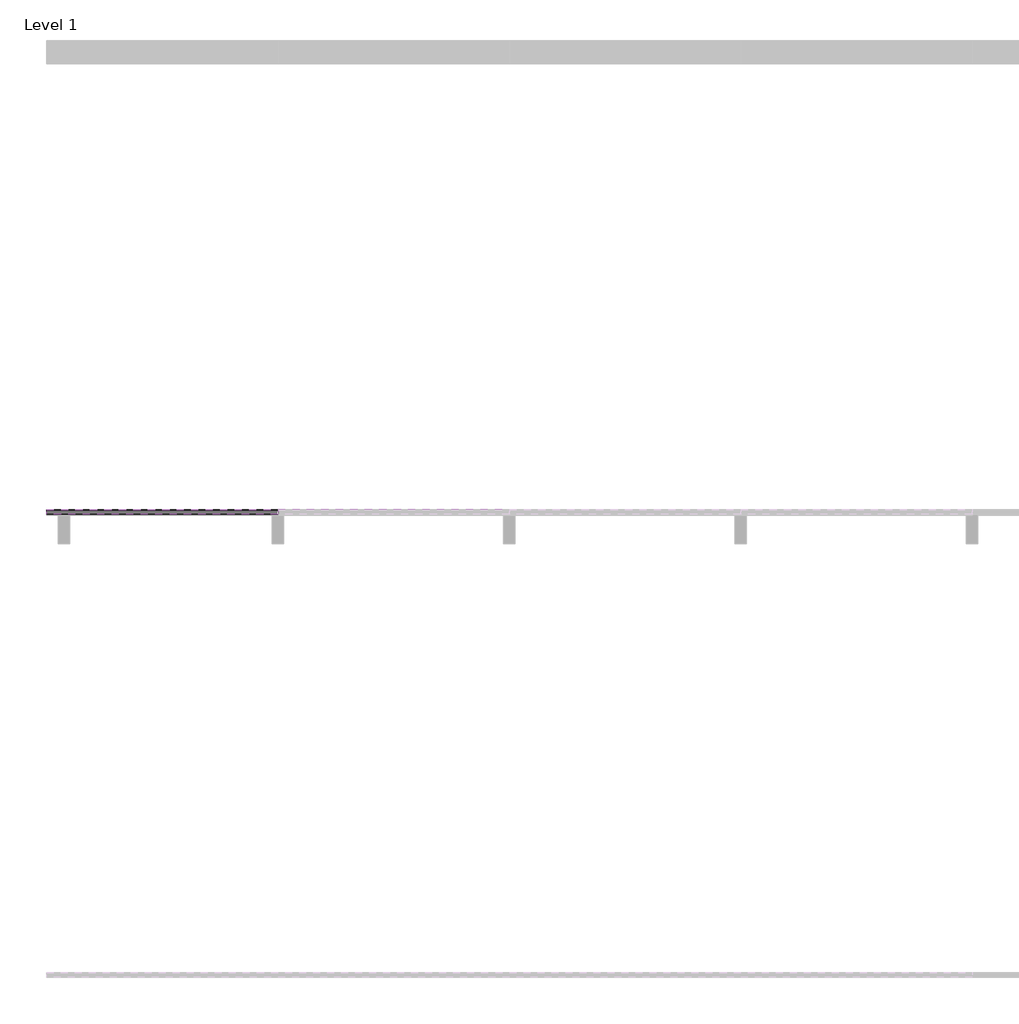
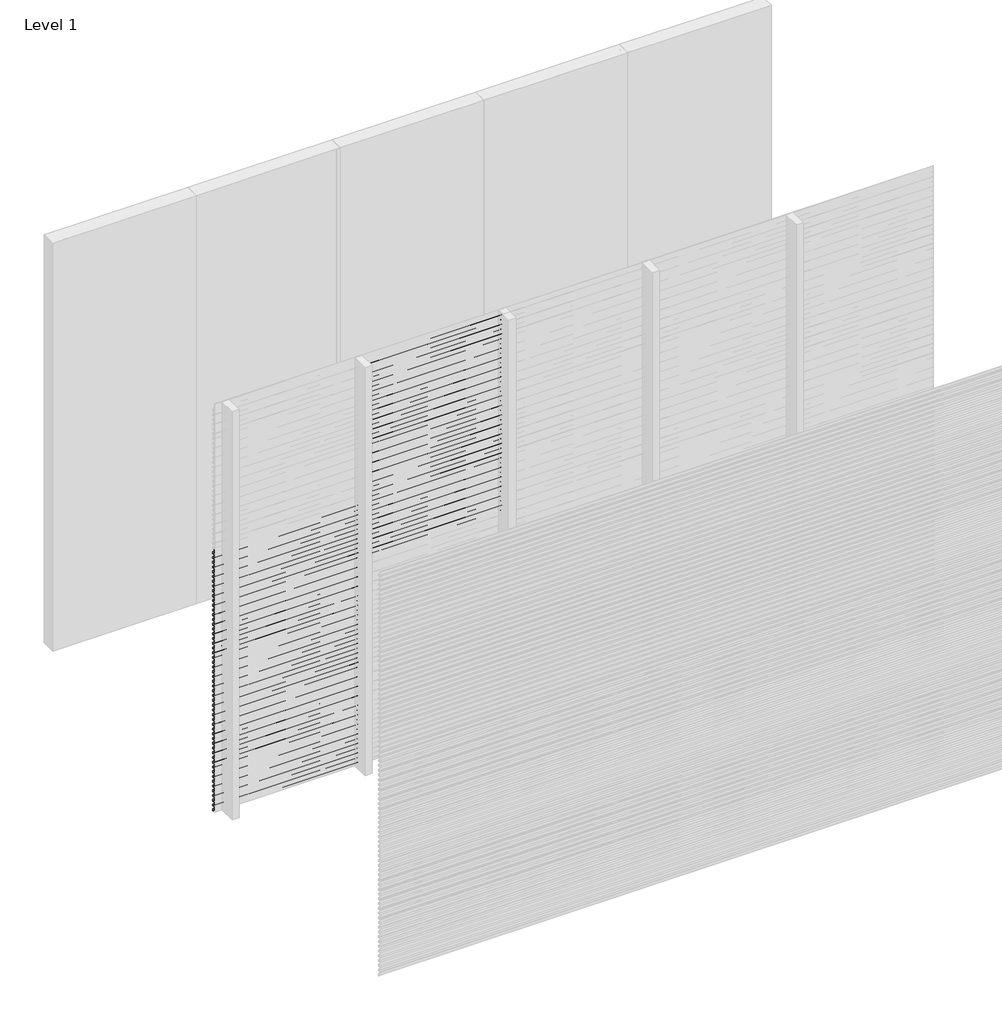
# One storey, part 3 of 25: 97 proxies.
"""IFC4 building model written with IfcOpenShell, lengths in millimetres."""

from ifc_helpers import new_model, si_unit, frame, origin, place, context, project, spatial, polyline, outline, extrude, element, save

model = new_model("IFC4")

# Units and contexts
model_context = context("Model", 3, world=origin())
ifc_project = project(units=[si_unit("LENGTHUNIT", "METRE", prefix="MILLI")], contexts=[model_context])

# Site, building, storey
site = spatial("IfcSite", under=ifc_project)
building = spatial("IfcBuilding", under=site)
storey = spatial("IfcBuildingStorey", under=building, Name="Level 1", Elevation=0.0)

# Proxies
placement = place(None, origin())
element("IfcBuildingElementProxy", 1, Name="Wall Sweeps", at=placement, inside=storey, context=model_context, shape_type="SweptSolid", body=[
    extrude(outline(polyline([(-17995.0, 2975.0), (-17995.0, 2963.942893), (-17976.0, 2948.0), (-17976.0, 2935.0), (-17997.0, 2952.6210923), (-17997.0, 2975.0), (-17995.0, 2975.0)])), frame((1000.0000002, 0.0, 0.0), z_axis=(1.0, 0.0, 0.0), x_axis=(0.0, 1.0, 0.0)), (0.0, 0.0, 1.0), 999.9999999),
])
element("IfcBuildingElementProxy", 2, Name="Wall Sweeps", at=placement, inside=storey, context=model_context, shape_type="SweptSolid", body=[
    extrude(outline(polyline([(-17995.0, 2940.0), (-17995.0, 2928.942893), (-17976.0, 2913.0), (-17976.0, 2900.0), (-17997.0, 2917.6210923), (-17997.0, 2940.0), (-17995.0, 2940.0)])), frame((1000.0000002, 0.0, 0.0), z_axis=(1.0, 0.0, 0.0), x_axis=(0.0, 1.0, 0.0)), (0.0, 0.0, 1.0), 999.9999999),
])
element("IfcBuildingElementProxy", 3, Name="Wall Sweeps", at=placement, inside=storey, context=model_context, shape_type="SweptSolid", body=[
    extrude(outline(polyline([(-17995.0, 2905.0), (-17995.0, 2893.942893), (-17976.0, 2878.0), (-17976.0, 2865.0), (-17997.0, 2882.6210923), (-17997.0, 2905.0), (-17995.0, 2905.0)])), frame((1000.0000002, 0.0, 0.0), z_axis=(1.0, 0.0, 0.0), x_axis=(0.0, 1.0, 0.0)), (0.0, 0.0, 1.0), 999.9999999),
])
element("IfcBuildingElementProxy", 4, Name="Wall Sweeps", at=placement, inside=storey, context=model_context, shape_type="SweptSolid", body=[
    extrude(outline(polyline([(-17995.0, 2870.0), (-17995.0, 2858.942893), (-17976.0, 2843.0), (-17976.0, 2830.0), (-17997.0, 2847.6210923), (-17997.0, 2870.0), (-17995.0, 2870.0)])), frame((1000.0000002, 0.0, 0.0), z_axis=(1.0, 0.0, 0.0), x_axis=(0.0, 1.0, 0.0)), (0.0, 0.0, 1.0), 999.9999999),
])
element("IfcBuildingElementProxy", 5, Name="Wall Sweeps", at=placement, inside=storey, context=model_context, shape_type="SweptSolid", body=[
    extrude(outline(polyline([(-17995.0, 2835.0), (-17995.0, 2823.942893), (-17976.0, 2808.0), (-17976.0, 2795.0), (-17997.0, 2812.6210923), (-17997.0, 2835.0), (-17995.0, 2835.0)])), frame((1000.0000002, 0.0, 0.0), z_axis=(1.0, 0.0, 0.0), x_axis=(0.0, 1.0, 0.0)), (0.0, 0.0, 1.0), 999.9999999),
])
element("IfcBuildingElementProxy", 6, Name="Wall Sweeps", at=placement, inside=storey, context=model_context, shape_type="SweptSolid", body=[
    extrude(outline(polyline([(-17995.0, 2800.0), (-17995.0, 2788.942893), (-17976.0, 2773.0), (-17976.0, 2760.0), (-17997.0, 2777.6210923), (-17997.0, 2800.0), (-17995.0, 2800.0)])), frame((1000.0000002, 0.0, 0.0), z_axis=(1.0, 0.0, 0.0), x_axis=(0.0, 1.0, 0.0)), (0.0, 0.0, 1.0), 999.9999999),
])
element("IfcBuildingElementProxy", 7, Name="Wall Sweeps", at=placement, inside=storey, context=model_context, shape_type="SweptSolid", body=[
    extrude(outline(polyline([(-17995.0, 2765.0), (-17995.0, 2753.942893), (-17976.0, 2738.0), (-17976.0, 2725.0), (-17997.0, 2742.6210923), (-17997.0, 2765.0), (-17995.0, 2765.0)])), frame((1000.0000002, 0.0, 0.0), z_axis=(1.0, 0.0, 0.0), x_axis=(0.0, 1.0, 0.0)), (0.0, 0.0, 1.0), 999.9999999),
])
element("IfcBuildingElementProxy", 8, Name="Wall Sweeps", at=placement, inside=storey, context=model_context, shape_type="SweptSolid", body=[
    extrude(outline(polyline([(-17995.0, 2730.0), (-17995.0, 2718.942893), (-17976.0, 2703.0), (-17976.0, 2690.0), (-17997.0, 2707.6210923), (-17997.0, 2730.0), (-17995.0, 2730.0)])), frame((1000.0000002, 0.0, 0.0), z_axis=(1.0, 0.0, 0.0), x_axis=(0.0, 1.0, 0.0)), (0.0, 0.0, 1.0), 999.9999999),
])
element("IfcBuildingElementProxy", 9, Name="Wall Sweeps", at=placement, inside=storey, context=model_context, shape_type="SweptSolid", body=[
    extrude(outline(polyline([(-17995.0, 2695.0), (-17995.0, 2683.942893), (-17976.0, 2668.0), (-17976.0, 2655.0), (-17997.0, 2672.6210923), (-17997.0, 2695.0), (-17995.0, 2695.0)])), frame((1000.0000002, 0.0, 0.0), z_axis=(1.0, 0.0, 0.0), x_axis=(0.0, 1.0, 0.0)), (0.0, 0.0, 1.0), 999.9999999),
])
element("IfcBuildingElementProxy", 10, Name="Wall Sweeps", at=placement, inside=storey, context=model_context, shape_type="SweptSolid", body=[
    extrude(outline(polyline([(-17995.0, 2660.0), (-17995.0, 2648.942893), (-17976.0, 2633.0), (-17976.0, 2620.0), (-17997.0, 2637.6210923), (-17997.0, 2660.0), (-17995.0, 2660.0)])), frame((1000.0000002, 0.0, 0.0), z_axis=(1.0, 0.0, 0.0), x_axis=(0.0, 1.0, 0.0)), (0.0, 0.0, 1.0), 999.9999999),
])
element("IfcBuildingElementProxy", 11, Name="Wall Sweeps", at=placement, inside=storey, context=model_context, shape_type="SweptSolid", body=[
    extrude(outline(polyline([(-17995.0, 2625.0), (-17995.0, 2613.942893), (-17976.0, 2598.0), (-17976.0, 2585.0), (-17997.0, 2602.6210923), (-17997.0, 2625.0), (-17995.0, 2625.0)])), frame((1000.0000002, 0.0, 0.0), z_axis=(1.0, 0.0, 0.0), x_axis=(0.0, 1.0, 0.0)), (0.0, 0.0, 1.0), 999.9999999),
])
element("IfcBuildingElementProxy", 12, Name="Wall Sweeps", at=placement, inside=storey, context=model_context, shape_type="SweptSolid", body=[
    extrude(outline(polyline([(-17995.0, 2590.0), (-17995.0, 2578.942893), (-17976.0, 2563.0), (-17976.0, 2550.0), (-17997.0, 2567.6210923), (-17997.0, 2590.0), (-17995.0, 2590.0)])), frame((1000.0000002, 0.0, 0.0), z_axis=(1.0, 0.0, 0.0), x_axis=(0.0, 1.0, 0.0)), (0.0, 0.0, 1.0), 999.9999999),
])
element("IfcBuildingElementProxy", 13, Name="Wall Sweeps", at=placement, inside=storey, context=model_context, shape_type="SweptSolid", body=[
    extrude(outline(polyline([(-17995.0, 2555.0), (-17995.0, 2543.942893), (-17976.0, 2528.0), (-17976.0, 2515.0), (-17997.0, 2532.6210923), (-17997.0, 2555.0), (-17995.0, 2555.0)])), frame((1000.0000002, 0.0, 0.0), z_axis=(1.0, 0.0, 0.0), x_axis=(0.0, 1.0, 0.0)), (0.0, 0.0, 1.0), 999.9999999),
])
element("IfcBuildingElementProxy", 14, Name="Wall Sweeps", at=placement, inside=storey, context=model_context, shape_type="SweptSolid", body=[
    extrude(outline(polyline([(-17995.0, 2520.0), (-17995.0, 2508.942893), (-17976.0, 2493.0), (-17976.0, 2480.0), (-17997.0, 2497.6210923), (-17997.0, 2520.0), (-17995.0, 2520.0)])), frame((1000.0000002, 0.0, 0.0), z_axis=(1.0, 0.0, 0.0), x_axis=(0.0, 1.0, 0.0)), (0.0, 0.0, 1.0), 999.9999999),
])
element("IfcBuildingElementProxy", 15, Name="Wall Sweeps", at=placement, inside=storey, context=model_context, shape_type="SweptSolid", body=[
    extrude(outline(polyline([(-17995.0, 2485.0), (-17995.0, 2473.942893), (-17976.0, 2458.0), (-17976.0, 2445.0), (-17997.0, 2462.6210923), (-17997.0, 2485.0), (-17995.0, 2485.0)])), frame((1000.0000002, 0.0, 0.0), z_axis=(1.0, 0.0, 0.0), x_axis=(0.0, 1.0, 0.0)), (0.0, 0.0, 1.0), 999.9999999),
])
element("IfcBuildingElementProxy", 16, Name="Wall Sweeps", at=placement, inside=storey, context=model_context, shape_type="SweptSolid", body=[
    extrude(outline(polyline([(-17995.0, 2450.0), (-17995.0, 2438.942893), (-17976.0, 2423.0), (-17976.0, 2410.0), (-17997.0, 2427.6210923), (-17997.0, 2450.0), (-17995.0, 2450.0)])), frame((1000.0000002, 0.0, 0.0), z_axis=(1.0, 0.0, 0.0), x_axis=(0.0, 1.0, 0.0)), (0.0, 0.0, 1.0), 999.9999999),
])
element("IfcBuildingElementProxy", 17, Name="Wall Sweeps", at=placement, inside=storey, context=model_context, shape_type="SweptSolid", body=[
    extrude(outline(polyline([(-17995.0, 2415.0), (-17995.0, 2403.942893), (-17976.0, 2388.0), (-17976.0, 2375.0), (-17997.0, 2392.6210923), (-17997.0, 2415.0), (-17995.0, 2415.0)])), frame((1000.0000002, 0.0, 0.0), z_axis=(1.0, 0.0, 0.0), x_axis=(0.0, 1.0, 0.0)), (0.0, 0.0, 1.0), 999.9999999),
])
element("IfcBuildingElementProxy", 18, Name="Wall Sweeps", at=placement, inside=storey, context=model_context, shape_type="SweptSolid", body=[
    extrude(outline(polyline([(-17995.0, 2380.0), (-17995.0, 2368.942893), (-17976.0, 2353.0), (-17976.0, 2340.0), (-17997.0, 2357.6210923), (-17997.0, 2380.0), (-17995.0, 2380.0)])), frame((1000.0000002, 0.0, 0.0), z_axis=(1.0, 0.0, 0.0), x_axis=(0.0, 1.0, 0.0)), (0.0, 0.0, 1.0), 999.9999999),
])
element("IfcBuildingElementProxy", 19, Name="Wall Sweeps", at=placement, inside=storey, context=model_context, shape_type="SweptSolid", body=[
    extrude(outline(polyline([(-17995.0, 2345.0), (-17995.0, 2333.942893), (-17976.0, 2318.0), (-17976.0, 2305.0), (-17997.0, 2322.6210923), (-17997.0, 2345.0), (-17995.0, 2345.0)])), frame((1000.0000002, 0.0, 0.0), z_axis=(1.0, 0.0, 0.0), x_axis=(0.0, 1.0, 0.0)), (0.0, 0.0, 1.0), 999.9999999),
])
element("IfcBuildingElementProxy", 20, Name="Wall Sweeps", at=placement, inside=storey, context=model_context, shape_type="SweptSolid", body=[
    extrude(outline(polyline([(-17995.0, 2310.0), (-17995.0, 2298.942893), (-17976.0, 2283.0), (-17976.0, 2270.0), (-17997.0, 2287.6210923), (-17997.0, 2310.0), (-17995.0, 2310.0)])), frame((1000.0000002, 0.0, 0.0), z_axis=(1.0, 0.0, 0.0), x_axis=(0.0, 1.0, 0.0)), (0.0, 0.0, 1.0), 999.9999999),
])
element("IfcBuildingElementProxy", 21, Name="Wall Sweeps", at=placement, inside=storey, context=model_context, shape_type="SweptSolid", body=[
    extrude(outline(polyline([(-17995.0, 2275.0), (-17995.0, 2263.942893), (-17976.0, 2248.0), (-17976.0, 2235.0), (-17997.0, 2252.6210923), (-17997.0, 2275.0), (-17995.0, 2275.0)])), frame((1000.0000002, 0.0, 0.0), z_axis=(1.0, 0.0, 0.0), x_axis=(0.0, 1.0, 0.0)), (0.0, 0.0, 1.0), 999.9999999),
])
element("IfcBuildingElementProxy", 22, Name="Wall Sweeps", at=placement, inside=storey, context=model_context, shape_type="SweptSolid", body=[
    extrude(outline(polyline([(-17995.0, 2240.0), (-17995.0, 2228.942893), (-17976.0, 2213.0), (-17976.0, 2200.0), (-17997.0, 2217.6210923), (-17997.0, 2240.0), (-17995.0, 2240.0)])), frame((1000.0000002, 0.0, 0.0), z_axis=(1.0, 0.0, 0.0), x_axis=(0.0, 1.0, 0.0)), (0.0, 0.0, 1.0), 999.9999999),
])
element("IfcBuildingElementProxy", 23, Name="Wall Sweeps", at=placement, inside=storey, context=model_context, shape_type="SweptSolid", body=[
    extrude(outline(polyline([(-17995.0, 2205.0), (-17995.0, 2193.942893), (-17976.0, 2178.0), (-17976.0, 2165.0), (-17997.0, 2182.6210923), (-17997.0, 2205.0), (-17995.0, 2205.0)])), frame((1000.0000002, 0.0, 0.0), z_axis=(1.0, 0.0, 0.0), x_axis=(0.0, 1.0, 0.0)), (0.0, 0.0, 1.0), 999.9999999),
])
element("IfcBuildingElementProxy", 24, Name="Wall Sweeps", at=placement, inside=storey, context=model_context, shape_type="SweptSolid", body=[
    extrude(outline(polyline([(-17995.0, 2170.0), (-17995.0, 2158.942893), (-17976.0, 2143.0), (-17976.0, 2130.0), (-17997.0, 2147.6210923), (-17997.0, 2170.0), (-17995.0, 2170.0)])), frame((1000.0000002, 0.0, 0.0), z_axis=(1.0, 0.0, 0.0), x_axis=(0.0, 1.0, 0.0)), (0.0, 0.0, 1.0), 999.9999999),
])
element("IfcBuildingElementProxy", 25, Name="Wall Sweeps", at=placement, inside=storey, context=model_context, shape_type="SweptSolid", body=[
    extrude(outline(polyline([(-17995.0, 2135.0), (-17995.0, 2123.942893), (-17976.0, 2108.0), (-17976.0, 2095.0), (-17997.0, 2112.6210923), (-17997.0, 2135.0), (-17995.0, 2135.0)])), frame((1000.0000002, 0.0, 0.0), z_axis=(1.0, 0.0, 0.0), x_axis=(0.0, 1.0, 0.0)), (0.0, 0.0, 1.0), 999.9999999),
])
element("IfcBuildingElementProxy", 26, Name="Wall Sweeps", at=placement, inside=storey, context=model_context, shape_type="SweptSolid", body=[
    extrude(outline(polyline([(-17995.0, 2100.0), (-17995.0, 2088.942893), (-17976.0, 2073.0), (-17976.0, 2060.0), (-17997.0, 2077.6210923), (-17997.0, 2100.0), (-17995.0, 2100.0)])), frame((1000.0000002, 0.0, 0.0), z_axis=(1.0, 0.0, 0.0), x_axis=(0.0, 1.0, 0.0)), (0.0, 0.0, 1.0), 999.9999999),
])
element("IfcBuildingElementProxy", 27, Name="Wall Sweeps", at=placement, inside=storey, context=model_context, shape_type="SweptSolid", body=[
    extrude(outline(polyline([(-17995.0, 2065.0), (-17995.0, 2053.942893), (-17976.0, 2038.0), (-17976.0, 2025.0), (-17997.0, 2042.6210923), (-17997.0, 2065.0), (-17995.0, 2065.0)])), frame((1000.0000002, 0.0, 0.0), z_axis=(1.0, 0.0, 0.0), x_axis=(0.0, 1.0, 0.0)), (0.0, 0.0, 1.0), 999.9999999),
])
element("IfcBuildingElementProxy", 28, Name="Wall Sweeps", at=placement, inside=storey, context=model_context, shape_type="SweptSolid", body=[
    extrude(outline(polyline([(-17995.0, 2030.0), (-17995.0, 2018.942893), (-17976.0, 2003.0), (-17976.0, 1990.0), (-17997.0, 2007.6210923), (-17997.0, 2030.0), (-17995.0, 2030.0)])), frame((1000.0000002, 0.0, 0.0), z_axis=(1.0, 0.0, 0.0), x_axis=(0.0, 1.0, 0.0)), (0.0, 0.0, 1.0), 999.9999999),
])
element("IfcBuildingElementProxy", 29, Name="Wall Sweeps", at=placement, inside=storey, context=model_context, shape_type="SweptSolid", body=[
    extrude(outline(polyline([(-17995.0, 1995.0), (-17995.0, 1983.942893), (-17976.0, 1968.0), (-17976.0, 1955.0), (-17997.0, 1972.6210923), (-17997.0, 1995.0), (-17995.0, 1995.0)])), frame((1000.0000002, 0.0, 0.0), z_axis=(1.0, 0.0, 0.0), x_axis=(0.0, 1.0, 0.0)), (0.0, 0.0, 1.0), 999.9999999),
])
element("IfcBuildingElementProxy", 30, Name="Wall Sweeps", at=placement, inside=storey, context=model_context, shape_type="SweptSolid", body=[
    extrude(outline(polyline([(-17995.0, 1960.0), (-17995.0, 1948.942893), (-17976.0, 1933.0), (-17976.0, 1920.0), (-17997.0, 1937.6210923), (-17997.0, 1960.0), (-17995.0, 1960.0)])), frame((1000.0000002, 0.0, 0.0), z_axis=(1.0, 0.0, 0.0), x_axis=(0.0, 1.0, 0.0)), (0.0, 0.0, 1.0), 999.9999999),
])
element("IfcBuildingElementProxy", 31, Name="Wall Sweeps", at=placement, inside=storey, context=model_context, shape_type="SweptSolid", body=[
    extrude(outline(polyline([(-17995.0, 1925.0), (-17995.0, 1913.942893), (-17976.0, 1898.0), (-17976.0, 1885.0), (-17997.0, 1902.6210923), (-17997.0, 1925.0), (-17995.0, 1925.0)])), frame((1000.0000002, 0.0, 0.0), z_axis=(1.0, 0.0, 0.0), x_axis=(0.0, 1.0, 0.0)), (0.0, 0.0, 1.0), 999.9999999),
])
element("IfcBuildingElementProxy", 32, Name="Wall Sweeps", at=placement, inside=storey, context=model_context, shape_type="SweptSolid", body=[
    extrude(outline(polyline([(-17995.0, 1890.0), (-17995.0, 1878.942893), (-17976.0, 1863.0), (-17976.0, 1850.0), (-17997.0, 1867.6210923), (-17997.0, 1890.0), (-17995.0, 1890.0)])), frame((1000.0000002, 0.0, 0.0), z_axis=(1.0, 0.0, 0.0), x_axis=(0.0, 1.0, 0.0)), (0.0, 0.0, 1.0), 999.9999999),
])
element("IfcBuildingElementProxy", 33, Name="Wall Sweeps", at=placement, inside=storey, context=model_context, shape_type="SweptSolid", body=[
    extrude(outline(polyline([(-17995.0, 1855.0), (-17995.0, 1843.942893), (-17976.0, 1828.0), (-17976.0, 1815.0), (-17997.0, 1832.6210923), (-17997.0, 1855.0), (-17995.0, 1855.0)])), frame((1000.0000002, 0.0, 0.0), z_axis=(1.0, 0.0, 0.0), x_axis=(0.0, 1.0, 0.0)), (0.0, 0.0, 1.0), 999.9999999),
])
element("IfcBuildingElementProxy", 34, Name="Wall Sweeps", at=placement, inside=storey, context=model_context, shape_type="SweptSolid", body=[
    extrude(outline(polyline([(-17995.0, 1820.0), (-17995.0, 1808.942893), (-17976.0, 1793.0), (-17976.0, 1780.0), (-17997.0, 1797.6210923), (-17997.0, 1820.0), (-17995.0, 1820.0)])), frame((1000.0000002, 0.0, 0.0), z_axis=(1.0, 0.0, 0.0), x_axis=(0.0, 1.0, 0.0)), (0.0, 0.0, 1.0), 999.9999999),
])
element("IfcBuildingElementProxy", 35, Name="Wall Sweeps", at=placement, inside=storey, context=model_context, shape_type="SweptSolid", body=[
    extrude(outline(polyline([(-17995.0, 1785.0), (-17995.0, 1773.942893), (-17976.0, 1758.0), (-17976.0, 1745.0), (-17997.0, 1762.6210923), (-17997.0, 1785.0), (-17995.0, 1785.0)])), frame((1000.0000002, 0.0, 0.0), z_axis=(1.0, 0.0, 0.0), x_axis=(0.0, 1.0, 0.0)), (0.0, 0.0, 1.0), 999.9999999),
])
element("IfcBuildingElementProxy", 36, Name="Wall Sweeps", at=placement, inside=storey, context=model_context, shape_type="SweptSolid", body=[
    extrude(outline(polyline([(-17995.0, 1750.0), (-17995.0, 1738.942893), (-17976.0, 1723.0), (-17976.0, 1710.0), (-17997.0, 1727.6210923), (-17997.0, 1750.0), (-17995.0, 1750.0)])), frame((1000.0000002, 0.0, 0.0), z_axis=(1.0, 0.0, 0.0), x_axis=(0.0, 1.0, 0.0)), (0.0, 0.0, 1.0), 999.9999999),
])
element("IfcBuildingElementProxy", 37, Name="Wall Sweeps", at=placement, inside=storey, context=model_context, shape_type="SweptSolid", body=[
    extrude(outline(polyline([(-17995.0, 1715.0), (-17995.0, 1703.942893), (-17976.0, 1688.0), (-17976.0, 1675.0), (-17997.0, 1692.6210923), (-17997.0, 1715.0), (-17995.0, 1715.0)])), frame((1000.0000002, 0.0, 0.0), z_axis=(1.0, 0.0, 0.0), x_axis=(0.0, 1.0, 0.0)), (0.0, 0.0, 1.0), 999.9999999),
])
element("IfcBuildingElementProxy", 38, Name="Wall Sweeps", at=placement, inside=storey, context=model_context, shape_type="SweptSolid", body=[
    extrude(outline(polyline([(-17995.0, 1680.0), (-17995.0, 1668.942893), (-17976.0, 1653.0), (-17976.0, 1640.0), (-17997.0, 1657.6210923), (-17997.0, 1680.0), (-17995.0, 1680.0)])), frame((1000.0000002, 0.0, 0.0), z_axis=(1.0, 0.0, 0.0), x_axis=(0.0, 1.0, 0.0)), (0.0, 0.0, 1.0), 999.9999999),
])
element("IfcBuildingElementProxy", 39, Name="Wall Sweeps", at=placement, inside=storey, context=model_context, shape_type="SweptSolid", body=[
    extrude(outline(polyline([(-17995.0, 1645.0), (-17995.0, 1633.942893), (-17976.0, 1618.0), (-17976.0, 1605.0), (-17997.0, 1622.6210923), (-17997.0, 1645.0), (-17995.0, 1645.0)])), frame((1000.0000002, 0.0, 0.0), z_axis=(1.0, 0.0, 0.0), x_axis=(0.0, 1.0, 0.0)), (0.0, 0.0, 1.0), 999.9999999),
])
element("IfcBuildingElementProxy", 40, Name="Wall Sweeps", at=placement, inside=storey, context=model_context, shape_type="SweptSolid", body=[
    extrude(outline(polyline([(-17995.0, 1610.0), (-17995.0, 1598.942893), (-17976.0, 1583.0), (-17976.0, 1570.0), (-17997.0, 1587.6210923), (-17997.0, 1610.0), (-17995.0, 1610.0)])), frame((1000.0000002, 0.0, 0.0), z_axis=(1.0, 0.0, 0.0), x_axis=(0.0, 1.0, 0.0)), (0.0, 0.0, 1.0), 999.9999999),
])
element("IfcBuildingElementProxy", 41, Name="Wall Sweeps", at=placement, inside=storey, context=model_context, shape_type="SweptSolid", body=[
    extrude(outline(polyline([(-17995.0, 1575.0), (-17995.0, 1563.942893), (-17976.0, 1548.0), (-17976.0, 1535.0), (-17997.0, 1552.6210923), (-17997.0, 1575.0), (-17995.0, 1575.0)])), frame((1000.0000002, 0.0, 0.0), z_axis=(1.0, 0.0, 0.0), x_axis=(0.0, 1.0, 0.0)), (0.0, 0.0, 1.0), 999.9999999),
])
element("IfcBuildingElementProxy", 42, Name="Wall Sweeps", at=placement, inside=storey, context=model_context, shape_type="SweptSolid", body=[
    extrude(outline(polyline([(-17995.0, 1540.0), (-17995.0, 1528.942893), (-17976.0, 1513.0), (-17976.0, 1500.0), (-17997.0, 1517.6210923), (-17997.0, 1540.0), (-17995.0, 1540.0)])), frame((1000.0000002, 0.0, 0.0), z_axis=(1.0, 0.0, 0.0), x_axis=(0.0, 1.0, 0.0)), (0.0, 0.0, 1.0), 999.9999999),
])
element("IfcBuildingElementProxy", 43, Name="Wall Sweeps", at=placement, inside=storey, context=model_context, shape_type="SweptSolid", body=[
    extrude(outline(polyline([(-17995.0, 1925.0), (-17995.0, 1913.942893), (-17976.0, 1898.0), (-17976.0, 1885.0), (-17997.0, 1902.6210923), (-17997.0, 1925.0), (-17995.0, 1925.0)])), frame((0.0, 0.0, 0.0), z_axis=(1.0, 0.0, 0.0), x_axis=(0.0, 1.0, 0.0)), (0.0, 0.0, 1.0), 1000.0000002),
])
element("IfcBuildingElementProxy", 44, Name="Wall Sweeps", at=placement, inside=storey, context=model_context, shape_type="SweptSolid", body=[
    extrude(outline(polyline([(-17995.0, 1890.0), (-17995.0, 1878.942893), (-17976.0, 1863.0), (-17976.0, 1850.0), (-17997.0, 1867.6210923), (-17997.0, 1890.0), (-17995.0, 1890.0)])), frame((0.0, 0.0, 0.0), z_axis=(1.0, 0.0, 0.0), x_axis=(0.0, 1.0, 0.0)), (0.0, 0.0, 1.0), 1000.0000002),
])
element("IfcBuildingElementProxy", 45, Name="Wall Sweeps", at=placement, inside=storey, context=model_context, shape_type="SweptSolid", body=[
    extrude(outline(polyline([(-17995.0, 1855.0), (-17995.0, 1843.942893), (-17976.0, 1828.0), (-17976.0, 1815.0), (-17997.0, 1832.6210923), (-17997.0, 1855.0), (-17995.0, 1855.0)])), frame((0.0, 0.0, 0.0), z_axis=(1.0, 0.0, 0.0), x_axis=(0.0, 1.0, 0.0)), (0.0, 0.0, 1.0), 1000.0000002),
])
element("IfcBuildingElementProxy", 46, Name="Wall Sweeps", at=placement, inside=storey, context=model_context, shape_type="SweptSolid", body=[
    extrude(outline(polyline([(-17995.0, 1820.0), (-17995.0, 1808.942893), (-17976.0, 1793.0), (-17976.0, 1780.0), (-17997.0, 1797.6210923), (-17997.0, 1820.0), (-17995.0, 1820.0)])), frame((0.0, 0.0, 0.0), z_axis=(1.0, 0.0, 0.0), x_axis=(0.0, 1.0, 0.0)), (0.0, 0.0, 1.0), 1000.0000002),
])
element("IfcBuildingElementProxy", 47, Name="Wall Sweeps", at=placement, inside=storey, context=model_context, shape_type="SweptSolid", body=[
    extrude(outline(polyline([(-17995.0, 1785.0), (-17995.0, 1773.942893), (-17976.0, 1758.0), (-17976.0, 1745.0), (-17997.0, 1762.6210923), (-17997.0, 1785.0), (-17995.0, 1785.0)])), frame((0.0, 0.0, 0.0), z_axis=(1.0, 0.0, 0.0), x_axis=(0.0, 1.0, 0.0)), (0.0, 0.0, 1.0), 1000.0000002),
])
element("IfcBuildingElementProxy", 48, Name="Wall Sweeps", at=placement, inside=storey, context=model_context, shape_type="SweptSolid", body=[
    extrude(outline(polyline([(-17995.0, 1750.0), (-17995.0, 1738.942893), (-17976.0, 1723.0), (-17976.0, 1710.0), (-17997.0, 1727.6210923), (-17997.0, 1750.0), (-17995.0, 1750.0)])), frame((0.0, 0.0, 0.0), z_axis=(1.0, 0.0, 0.0), x_axis=(0.0, 1.0, 0.0)), (0.0, 0.0, 1.0), 1000.0000002),
])
element("IfcBuildingElementProxy", 49, Name="Wall Sweeps", at=placement, inside=storey, context=model_context, shape_type="SweptSolid", body=[
    extrude(outline(polyline([(-17995.0, 1715.0), (-17995.0, 1703.942893), (-17976.0, 1688.0), (-17976.0, 1675.0), (-17997.0, 1692.6210923), (-17997.0, 1715.0), (-17995.0, 1715.0)])), frame((0.0, 0.0, 0.0), z_axis=(1.0, 0.0, 0.0), x_axis=(0.0, 1.0, 0.0)), (0.0, 0.0, 1.0), 1000.0000002),
])
element("IfcBuildingElementProxy", 50, Name="Wall Sweeps", at=placement, inside=storey, context=model_context, shape_type="SweptSolid", body=[
    extrude(outline(polyline([(-17995.0, 1680.0), (-17995.0, 1668.942893), (-17976.0, 1653.0), (-17976.0, 1640.0), (-17997.0, 1657.6210923), (-17997.0, 1680.0), (-17995.0, 1680.0)])), frame((0.0, 0.0, 0.0), z_axis=(1.0, 0.0, 0.0), x_axis=(0.0, 1.0, 0.0)), (0.0, 0.0, 1.0), 1000.0000002),
])
element("IfcBuildingElementProxy", 51, Name="Wall Sweeps", at=placement, inside=storey, context=model_context, shape_type="SweptSolid", body=[
    extrude(outline(polyline([(-17995.0, 1645.0), (-17995.0, 1633.942893), (-17976.0, 1618.0), (-17976.0, 1605.0), (-17997.0, 1622.6210923), (-17997.0, 1645.0), (-17995.0, 1645.0)])), frame((0.0, 0.0, 0.0), z_axis=(1.0, 0.0, 0.0), x_axis=(0.0, 1.0, 0.0)), (0.0, 0.0, 1.0), 1000.0000002),
])
element("IfcBuildingElementProxy", 52, Name="Wall Sweeps", at=placement, inside=storey, context=model_context, shape_type="SweptSolid", body=[
    extrude(outline(polyline([(-17995.0, 1610.0), (-17995.0, 1598.942893), (-17976.0, 1583.0), (-17976.0, 1570.0), (-17997.0, 1587.6210923), (-17997.0, 1610.0), (-17995.0, 1610.0)])), frame((0.0, 0.0, 0.0), z_axis=(1.0, 0.0, 0.0), x_axis=(0.0, 1.0, 0.0)), (0.0, 0.0, 1.0), 1000.0000002),
])
element("IfcBuildingElementProxy", 53, Name="Wall Sweeps", at=placement, inside=storey, context=model_context, shape_type="SweptSolid", body=[
    extrude(outline(polyline([(-17995.0, 1575.0), (-17995.0, 1563.942893), (-17976.0, 1548.0), (-17976.0, 1535.0), (-17997.0, 1552.6210923), (-17997.0, 1575.0), (-17995.0, 1575.0)])), frame((0.0, 0.0, 0.0), z_axis=(1.0, 0.0, 0.0), x_axis=(0.0, 1.0, 0.0)), (0.0, 0.0, 1.0), 1000.0000002),
])
element("IfcBuildingElementProxy", 54, Name="Wall Sweeps", at=placement, inside=storey, context=model_context, shape_type="SweptSolid", body=[
    extrude(outline(polyline([(-17995.0, 1540.0), (-17995.0, 1528.942893), (-17976.0, 1513.0), (-17976.0, 1500.0), (-17997.0, 1517.6210923), (-17997.0, 1540.0), (-17995.0, 1540.0)])), frame((0.0, 0.0, 0.0), z_axis=(1.0, 0.0, 0.0), x_axis=(0.0, 1.0, 0.0)), (0.0, 0.0, 1.0), 1000.0000002),
])
element("IfcBuildingElementProxy", 55, Name="Wall Sweeps", at=placement, inside=storey, context=model_context, shape_type="SweptSolid", body=[
    extrude(outline(polyline([(-17995.0, 1505.0), (-17995.0, 1493.942893), (-17976.0, 1478.0), (-17976.0, 1465.0), (-17997.0, 1482.6210923), (-17997.0, 1505.0), (-17995.0, 1505.0)])), frame((0.0, 0.0, 0.0), z_axis=(1.0, 0.0, 0.0), x_axis=(0.0, 1.0, 0.0)), (0.0, 0.0, 1.0), 1000.0000002),
])
element("IfcBuildingElementProxy", 56, Name="Wall Sweeps", at=placement, inside=storey, context=model_context, shape_type="SweptSolid", body=[
    extrude(outline(polyline([(-17995.0, 1470.0), (-17995.0, 1458.942893), (-17976.0, 1443.0), (-17976.0, 1430.0), (-17997.0, 1447.6210923), (-17997.0, 1470.0), (-17995.0, 1470.0)])), frame((0.0, 0.0, 0.0), z_axis=(1.0, 0.0, 0.0), x_axis=(0.0, 1.0, 0.0)), (0.0, 0.0, 1.0), 1000.0000002),
])
element("IfcBuildingElementProxy", 57, Name="Wall Sweeps", at=placement, inside=storey, context=model_context, shape_type="SweptSolid", body=[
    extrude(outline(polyline([(-17995.0, 1435.0), (-17995.0, 1423.942893), (-17976.0, 1408.0), (-17976.0, 1395.0), (-17997.0, 1412.6210923), (-17997.0, 1435.0), (-17995.0, 1435.0)])), frame((0.0, 0.0, 0.0), z_axis=(1.0, 0.0, 0.0), x_axis=(0.0, 1.0, 0.0)), (0.0, 0.0, 1.0), 1000.0000002),
])
element("IfcBuildingElementProxy", 58, Name="Wall Sweeps", at=placement, inside=storey, context=model_context, shape_type="SweptSolid", body=[
    extrude(outline(polyline([(-17995.0, 1400.0), (-17995.0, 1388.942893), (-17976.0, 1373.0), (-17976.0, 1360.0), (-17997.0, 1377.6210923), (-17997.0, 1400.0), (-17995.0, 1400.0)])), frame((0.0, 0.0, 0.0), z_axis=(1.0, 0.0, 0.0), x_axis=(0.0, 1.0, 0.0)), (0.0, 0.0, 1.0), 1000.0000002),
])
element("IfcBuildingElementProxy", 59, Name="Wall Sweeps", at=placement, inside=storey, context=model_context, shape_type="SweptSolid", body=[
    extrude(outline(polyline([(-17995.0, 1365.0), (-17995.0, 1353.942893), (-17976.0, 1338.0), (-17976.0, 1325.0), (-17997.0, 1342.6210923), (-17997.0, 1365.0), (-17995.0, 1365.0)])), frame((0.0, 0.0, 0.0), z_axis=(1.0, 0.0, 0.0), x_axis=(0.0, 1.0, 0.0)), (0.0, 0.0, 1.0), 1000.0000002),
])
element("IfcBuildingElementProxy", 60, Name="Wall Sweeps", at=placement, inside=storey, context=model_context, shape_type="SweptSolid", body=[
    extrude(outline(polyline([(-17995.0, 1330.0), (-17995.0, 1318.942893), (-17976.0, 1303.0), (-17976.0, 1290.0), (-17997.0, 1307.6210923), (-17997.0, 1330.0), (-17995.0, 1330.0)])), frame((0.0, 0.0, 0.0), z_axis=(1.0, 0.0, 0.0), x_axis=(0.0, 1.0, 0.0)), (0.0, 0.0, 1.0), 1000.0000002),
])
element("IfcBuildingElementProxy", 61, Name="Wall Sweeps", at=placement, inside=storey, context=model_context, shape_type="SweptSolid", body=[
    extrude(outline(polyline([(-17995.0, 1295.0), (-17995.0, 1283.942893), (-17976.0, 1268.0), (-17976.0, 1255.0), (-17997.0, 1272.6210923), (-17997.0, 1295.0), (-17995.0, 1295.0)])), frame((0.0, 0.0, 0.0), z_axis=(1.0, 0.0, 0.0), x_axis=(0.0, 1.0, 0.0)), (0.0, 0.0, 1.0), 1000.0000002),
])
element("IfcBuildingElementProxy", 62, Name="Wall Sweeps", at=placement, inside=storey, context=model_context, shape_type="SweptSolid", body=[
    extrude(outline(polyline([(-17995.0, 1260.0), (-17995.0, 1248.942893), (-17976.0, 1233.0), (-17976.0, 1220.0), (-17997.0, 1237.6210923), (-17997.0, 1260.0), (-17995.0, 1260.0)])), frame((0.0, 0.0, 0.0), z_axis=(1.0, 0.0, 0.0), x_axis=(0.0, 1.0, 0.0)), (0.0, 0.0, 1.0), 1000.0000002),
])
element("IfcBuildingElementProxy", 63, Name="Wall Sweeps", at=placement, inside=storey, context=model_context, shape_type="SweptSolid", body=[
    extrude(outline(polyline([(-17995.0, 1225.0), (-17995.0, 1213.942893), (-17976.0, 1198.0), (-17976.0, 1185.0), (-17997.0, 1202.6210923), (-17997.0, 1225.0), (-17995.0, 1225.0)])), frame((0.0, 0.0, 0.0), z_axis=(1.0, 0.0, 0.0), x_axis=(0.0, 1.0, 0.0)), (0.0, 0.0, 1.0), 1000.0000002),
])
element("IfcBuildingElementProxy", 64, Name="Wall Sweeps", at=placement, inside=storey, context=model_context, shape_type="SweptSolid", body=[
    extrude(outline(polyline([(-17995.0, 1190.0), (-17995.0, 1178.942893), (-17976.0, 1163.0), (-17976.0, 1150.0), (-17997.0, 1167.6210923), (-17997.0, 1190.0), (-17995.0, 1190.0)])), frame((0.0, 0.0, 0.0), z_axis=(1.0, 0.0, 0.0), x_axis=(0.0, 1.0, 0.0)), (0.0, 0.0, 1.0), 1000.0000002),
])
element("IfcBuildingElementProxy", 65, Name="Wall Sweeps", at=placement, inside=storey, context=model_context, shape_type="SweptSolid", body=[
    extrude(outline(polyline([(-17995.0, 1155.0), (-17995.0, 1143.942893), (-17976.0, 1128.0), (-17976.0, 1115.0), (-17997.0, 1132.6210923), (-17997.0, 1155.0), (-17995.0, 1155.0)])), frame((0.0, 0.0, 0.0), z_axis=(1.0, 0.0, 0.0), x_axis=(0.0, 1.0, 0.0)), (0.0, 0.0, 1.0), 1000.0000002),
])
element("IfcBuildingElementProxy", 66, Name="Wall Sweeps", at=placement, inside=storey, context=model_context, shape_type="SweptSolid", body=[
    extrude(outline(polyline([(-17995.0, 1120.0), (-17995.0, 1108.942893), (-17976.0, 1093.0), (-17976.0, 1080.0), (-17997.0, 1097.6210923), (-17997.0, 1120.0), (-17995.0, 1120.0)])), frame((0.0, 0.0, 0.0), z_axis=(1.0, 0.0, 0.0), x_axis=(0.0, 1.0, 0.0)), (0.0, 0.0, 1.0), 1000.0000002),
])
element("IfcBuildingElementProxy", 67, Name="Wall Sweeps", at=placement, inside=storey, context=model_context, shape_type="SweptSolid", body=[
    extrude(outline(polyline([(-17995.0, 1085.0), (-17995.0, 1073.942893), (-17976.0, 1058.0), (-17976.0, 1045.0), (-17997.0, 1062.6210923), (-17997.0, 1085.0), (-17995.0, 1085.0)])), frame((0.0, 0.0, 0.0), z_axis=(1.0, 0.0, 0.0), x_axis=(0.0, 1.0, 0.0)), (0.0, 0.0, 1.0), 1000.0000002),
])
element("IfcBuildingElementProxy", 68, Name="Wall Sweeps", at=placement, inside=storey, context=model_context, shape_type="SweptSolid", body=[
    extrude(outline(polyline([(-17995.0, 1050.0), (-17995.0, 1038.942893), (-17976.0, 1023.0), (-17976.0, 1010.0), (-17997.0, 1027.6210923), (-17997.0, 1050.0), (-17995.0, 1050.0)])), frame((0.0, 0.0, 0.0), z_axis=(1.0, 0.0, 0.0), x_axis=(0.0, 1.0, 0.0)), (0.0, 0.0, 1.0), 1000.0000002),
])
element("IfcBuildingElementProxy", 69, Name="Wall Sweeps", at=placement, inside=storey, context=model_context, shape_type="SweptSolid", body=[
    extrude(outline(polyline([(-17995.0, 1015.0), (-17995.0, 1003.942893), (-17976.0, 988.0), (-17976.0, 975.0), (-17997.0, 992.6210923), (-17997.0, 1015.0), (-17995.0, 1015.0)])), frame((0.0, 0.0, 0.0), z_axis=(1.0, 0.0, 0.0), x_axis=(0.0, 1.0, 0.0)), (0.0, 0.0, 1.0), 1000.0000002),
])
element("IfcBuildingElementProxy", 70, Name="Wall Sweeps", at=placement, inside=storey, context=model_context, shape_type="SweptSolid", body=[
    extrude(outline(polyline([(-17995.0, 980.0), (-17995.0, 968.942893), (-17976.0, 953.0), (-17976.0, 940.0), (-17997.0, 957.6210923), (-17997.0, 980.0), (-17995.0, 980.0)])), frame((0.0, 0.0, 0.0), z_axis=(1.0, 0.0, 0.0), x_axis=(0.0, 1.0, 0.0)), (0.0, 0.0, 1.0), 1000.0000002),
])
element("IfcBuildingElementProxy", 71, Name="Wall Sweeps", at=placement, inside=storey, context=model_context, shape_type="SweptSolid", body=[
    extrude(outline(polyline([(-17995.0, 945.0), (-17995.0, 933.942893), (-17976.0, 918.0), (-17976.0, 905.0), (-17997.0, 922.6210923), (-17997.0, 945.0), (-17995.0, 945.0)])), frame((0.0, 0.0, 0.0), z_axis=(1.0, 0.0, 0.0), x_axis=(0.0, 1.0, 0.0)), (0.0, 0.0, 1.0), 1000.0000002),
])
element("IfcBuildingElementProxy", 72, Name="Wall Sweeps", at=placement, inside=storey, context=model_context, shape_type="SweptSolid", body=[
    extrude(outline(polyline([(-17995.0, 910.0), (-17995.0, 898.942893), (-17976.0, 883.0), (-17976.0, 870.0), (-17997.0, 887.6210923), (-17997.0, 910.0), (-17995.0, 910.0)])), frame((0.0, 0.0, 0.0), z_axis=(1.0, 0.0, 0.0), x_axis=(0.0, 1.0, 0.0)), (0.0, 0.0, 1.0), 1000.0000002),
])
element("IfcBuildingElementProxy", 73, Name="Wall Sweeps", at=placement, inside=storey, context=model_context, shape_type="SweptSolid", body=[
    extrude(outline(polyline([(-17995.0, 875.0), (-17995.0, 863.942893), (-17976.0, 848.0), (-17976.0, 835.0), (-17997.0, 852.6210923), (-17997.0, 875.0), (-17995.0, 875.0)])), frame((0.0, 0.0, 0.0), z_axis=(1.0, 0.0, 0.0), x_axis=(0.0, 1.0, 0.0)), (0.0, 0.0, 1.0), 1000.0000002),
])
element("IfcBuildingElementProxy", 74, Name="Wall Sweeps", at=placement, inside=storey, context=model_context, shape_type="SweptSolid", body=[
    extrude(outline(polyline([(-17995.0, 840.0), (-17995.0, 828.942893), (-17976.0, 813.0), (-17976.0, 800.0), (-17997.0, 817.6210923), (-17997.0, 840.0), (-17995.0, 840.0)])), frame((0.0, 0.0, 0.0), z_axis=(1.0, 0.0, 0.0), x_axis=(0.0, 1.0, 0.0)), (0.0, 0.0, 1.0), 1000.0000002),
])
element("IfcBuildingElementProxy", 75, Name="Wall Sweeps", at=placement, inside=storey, context=model_context, shape_type="SweptSolid", body=[
    extrude(outline(polyline([(-17995.0, 805.0), (-17995.0, 793.942893), (-17976.0, 778.0), (-17976.0, 765.0), (-17997.0, 782.6210923), (-17997.0, 805.0), (-17995.0, 805.0)])), frame((0.0, 0.0, 0.0), z_axis=(1.0, 0.0, 0.0), x_axis=(0.0, 1.0, 0.0)), (0.0, 0.0, 1.0), 1000.0000002),
])
element("IfcBuildingElementProxy", 76, Name="Wall Sweeps", at=placement, inside=storey, context=model_context, shape_type="SweptSolid", body=[
    extrude(outline(polyline([(-17995.0, 770.0), (-17995.0, 758.942893), (-17976.0, 743.0), (-17976.0, 730.0), (-17997.0, 747.6210923), (-17997.0, 770.0), (-17995.0, 770.0)])), frame((0.0, 0.0, 0.0), z_axis=(1.0, 0.0, 0.0), x_axis=(0.0, 1.0, 0.0)), (0.0, 0.0, 1.0), 1000.0000002),
])
element("IfcBuildingElementProxy", 77, Name="Wall Sweeps", at=placement, inside=storey, context=model_context, shape_type="SweptSolid", body=[
    extrude(outline(polyline([(-17995.0, 735.0), (-17995.0, 723.942893), (-17976.0, 708.0), (-17976.0, 695.0), (-17997.0, 712.6210923), (-17997.0, 735.0), (-17995.0, 735.0)])), frame((0.0, 0.0, 0.0), z_axis=(1.0, 0.0, 0.0), x_axis=(0.0, 1.0, 0.0)), (0.0, 0.0, 1.0), 1000.0000002),
])
element("IfcBuildingElementProxy", 78, Name="Wall Sweeps", at=placement, inside=storey, context=model_context, shape_type="SweptSolid", body=[
    extrude(outline(polyline([(-17995.0, 700.0), (-17995.0, 688.942893), (-17976.0, 673.0), (-17976.0, 660.0), (-17997.0, 677.6210923), (-17997.0, 700.0), (-17995.0, 700.0)])), frame((0.0, 0.0, 0.0), z_axis=(1.0, 0.0, 0.0), x_axis=(0.0, 1.0, 0.0)), (0.0, 0.0, 1.0), 1000.0000002),
])
element("IfcBuildingElementProxy", 79, Name="Wall Sweeps", at=placement, inside=storey, context=model_context, shape_type="SweptSolid", body=[
    extrude(outline(polyline([(-17995.0, 665.0), (-17995.0, 653.942893), (-17976.0, 638.0), (-17976.0, 625.0), (-17997.0, 642.6210923), (-17997.0, 665.0), (-17995.0, 665.0)])), frame((0.0, 0.0, 0.0), z_axis=(1.0, 0.0, 0.0), x_axis=(0.0, 1.0, 0.0)), (0.0, 0.0, 1.0), 1000.0000002),
])
element("IfcBuildingElementProxy", 80, Name="Wall Sweeps", at=placement, inside=storey, context=model_context, shape_type="SweptSolid", body=[
    extrude(outline(polyline([(-17995.0, 630.0), (-17995.0, 618.942893), (-17976.0, 603.0), (-17976.0, 590.0), (-17997.0, 607.6210923), (-17997.0, 630.0), (-17995.0, 630.0)])), frame((0.0, 0.0, 0.0), z_axis=(1.0, 0.0, 0.0), x_axis=(0.0, 1.0, 0.0)), (0.0, 0.0, 1.0), 1000.0000002),
])
element("IfcBuildingElementProxy", 81, Name="Wall Sweeps", at=placement, inside=storey, context=model_context, shape_type="SweptSolid", body=[
    extrude(outline(polyline([(-17995.0, 595.0), (-17995.0, 583.942893), (-17976.0, 568.0), (-17976.0, 555.0), (-17997.0, 572.6210923), (-17997.0, 595.0), (-17995.0, 595.0)])), frame((0.0, 0.0, 0.0), z_axis=(1.0, 0.0, 0.0), x_axis=(0.0, 1.0, 0.0)), (0.0, 0.0, 1.0), 1000.0000002),
])
element("IfcBuildingElementProxy", 82, Name="Wall Sweeps", at=placement, inside=storey, context=model_context, shape_type="SweptSolid", body=[
    extrude(outline(polyline([(-17995.0, 560.0), (-17995.0, 548.942893), (-17976.0, 533.0), (-17976.0, 520.0), (-17997.0, 537.6210923), (-17997.0, 560.0), (-17995.0, 560.0)])), frame((0.0, 0.0, 0.0), z_axis=(1.0, 0.0, 0.0), x_axis=(0.0, 1.0, 0.0)), (0.0, 0.0, 1.0), 1000.0000002),
])
element("IfcBuildingElementProxy", 83, Name="Wall Sweeps", at=placement, inside=storey, context=model_context, shape_type="SweptSolid", body=[
    extrude(outline(polyline([(-17995.0, 525.0), (-17995.0, 513.942893), (-17976.0, 498.0), (-17976.0, 485.0), (-17997.0, 502.6210923), (-17997.0, 525.0), (-17995.0, 525.0)])), frame((0.0, 0.0, 0.0), z_axis=(1.0, 0.0, 0.0), x_axis=(0.0, 1.0, 0.0)), (0.0, 0.0, 1.0), 1000.0000002),
])
element("IfcBuildingElementProxy", 84, Name="Wall Sweeps", at=placement, inside=storey, context=model_context, shape_type="SweptSolid", body=[
    extrude(outline(polyline([(-17995.0, 490.0), (-17995.0, 478.942893), (-17976.0, 463.0), (-17976.0, 450.0), (-17997.0, 467.6210923), (-17997.0, 490.0), (-17995.0, 490.0)])), frame((0.0, 0.0, 0.0), z_axis=(1.0, 0.0, 0.0), x_axis=(0.0, 1.0, 0.0)), (0.0, 0.0, 1.0), 1000.0000002),
])
element("IfcBuildingElementProxy", 85, Name="Wall Sweeps", at=placement, inside=storey, context=model_context, shape_type="SweptSolid", body=[
    extrude(outline(polyline([(-17995.0, 455.0), (-17995.0, 443.942893), (-17976.0, 428.0), (-17976.0, 415.0), (-17997.0, 432.6210923), (-17997.0, 455.0), (-17995.0, 455.0)])), frame((0.0, 0.0, 0.0), z_axis=(1.0, 0.0, 0.0), x_axis=(0.0, 1.0, 0.0)), (0.0, 0.0, 1.0), 1000.0000002),
])
element("IfcBuildingElementProxy", 86, Name="Wall Sweeps", at=placement, inside=storey, context=model_context, shape_type="SweptSolid", body=[
    extrude(outline(polyline([(-17995.0, 420.0), (-17995.0, 408.942893), (-17976.0, 393.0), (-17976.0, 380.0), (-17997.0, 397.6210923), (-17997.0, 420.0), (-17995.0, 420.0)])), frame((0.0, 0.0, 0.0), z_axis=(1.0, 0.0, 0.0), x_axis=(0.0, 1.0, 0.0)), (0.0, 0.0, 1.0), 1000.0000002),
])
element("IfcBuildingElementProxy", 87, Name="Wall Sweeps", at=placement, inside=storey, context=model_context, shape_type="SweptSolid", body=[
    extrude(outline(polyline([(-17995.0, 385.0), (-17995.0, 373.942893), (-17976.0, 358.0), (-17976.0, 345.0), (-17997.0, 362.6210923), (-17997.0, 385.0), (-17995.0, 385.0)])), frame((0.0, 0.0, 0.0), z_axis=(1.0, 0.0, 0.0), x_axis=(0.0, 1.0, 0.0)), (0.0, 0.0, 1.0), 1000.0000002),
])
element("IfcBuildingElementProxy", 88, Name="Wall Sweeps", at=placement, inside=storey, context=model_context, shape_type="SweptSolid", body=[
    extrude(outline(polyline([(-17995.0, 350.0), (-17995.0, 338.942893), (-17976.0, 323.0), (-17976.0, 310.0), (-17997.0, 327.6210923), (-17997.0, 350.0), (-17995.0, 350.0)])), frame((0.0, 0.0, 0.0), z_axis=(1.0, 0.0, 0.0), x_axis=(0.0, 1.0, 0.0)), (0.0, 0.0, 1.0), 1000.0000002),
])
element("IfcBuildingElementProxy", 89, Name="Wall Sweeps", at=placement, inside=storey, context=model_context, shape_type="SweptSolid", body=[
    extrude(outline(polyline([(-17995.0, 315.0), (-17995.0, 303.942893), (-17976.0, 288.0), (-17976.0, 275.0), (-17997.0, 292.6210923), (-17997.0, 315.0), (-17995.0, 315.0)])), frame((0.0, 0.0, 0.0), z_axis=(1.0, 0.0, 0.0), x_axis=(0.0, 1.0, 0.0)), (0.0, 0.0, 1.0), 1000.0000002),
])
element("IfcBuildingElementProxy", 90, Name="Wall Sweeps", at=placement, inside=storey, context=model_context, shape_type="SweptSolid", body=[
    extrude(outline(polyline([(-17995.0, 280.0), (-17995.0, 268.942893), (-17976.0, 253.0), (-17976.0, 240.0), (-17997.0, 257.6210923), (-17997.0, 280.0), (-17995.0, 280.0)])), frame((0.0, 0.0, 0.0), z_axis=(1.0, 0.0, 0.0), x_axis=(0.0, 1.0, 0.0)), (0.0, 0.0, 1.0), 1000.0000002),
])
element("IfcBuildingElementProxy", 91, Name="Wall Sweeps", at=placement, inside=storey, context=model_context, shape_type="SweptSolid", body=[
    extrude(outline(polyline([(-17995.0, 245.0), (-17995.0, 233.942893), (-17976.0, 218.0), (-17976.0, 205.0), (-17997.0, 222.6210923), (-17997.0, 245.0), (-17995.0, 245.0)])), frame((0.0, 0.0, 0.0), z_axis=(1.0, 0.0, 0.0), x_axis=(0.0, 1.0, 0.0)), (0.0, 0.0, 1.0), 1000.0000002),
])
element("IfcBuildingElementProxy", 92, Name="Wall Sweeps", at=placement, inside=storey, context=model_context, shape_type="SweptSolid", body=[
    extrude(outline(polyline([(-17995.0, 210.0), (-17995.0, 198.942893), (-17976.0, 183.0), (-17976.0, 170.0), (-17997.0, 187.6210923), (-17997.0, 210.0), (-17995.0, 210.0)])), frame((0.0, 0.0, 0.0), z_axis=(1.0, 0.0, 0.0), x_axis=(0.0, 1.0, 0.0)), (0.0, 0.0, 1.0), 1000.0000002),
])
element("IfcBuildingElementProxy", 93, Name="Wall Sweeps", at=placement, inside=storey, context=model_context, shape_type="SweptSolid", body=[
    extrude(outline(polyline([(-17995.0, 175.0), (-17995.0, 163.942893), (-17976.0, 148.0), (-17976.0, 135.0), (-17997.0, 152.6210923), (-17997.0, 175.0), (-17995.0, 175.0)])), frame((0.0, 0.0, 0.0), z_axis=(1.0, 0.0, 0.0), x_axis=(0.0, 1.0, 0.0)), (0.0, 0.0, 1.0), 1000.0000002),
])
element("IfcBuildingElementProxy", 94, Name="Wall Sweeps", at=placement, inside=storey, context=model_context, shape_type="SweptSolid", body=[
    extrude(outline(polyline([(-17995.0, 140.0), (-17995.0, 128.942893), (-17976.0, 113.0), (-17976.0, 100.0), (-17997.0, 117.6210923), (-17997.0, 140.0), (-17995.0, 140.0)])), frame((0.0, 0.0, 0.0), z_axis=(1.0, 0.0, 0.0), x_axis=(0.0, 1.0, 0.0)), (0.0, 0.0, 1.0), 1000.0000002),
])
element("IfcBuildingElementProxy", 95, Name="Wall Sweeps", at=placement, inside=storey, context=model_context, shape_type="SweptSolid", body=[
    extrude(outline(polyline([(-17995.0, 105.0), (-17995.0, 93.942893), (-17976.0, 78.0), (-17976.0, 65.0), (-17997.0, 82.6210923), (-17997.0, 105.0), (-17995.0, 105.0)])), frame((0.0, 0.0, 0.0), z_axis=(1.0, 0.0, 0.0), x_axis=(0.0, 1.0, 0.0)), (0.0, 0.0, 1.0), 1000.0000002),
])
element("IfcBuildingElementProxy", 96, Name="Wall Sweeps", at=placement, inside=storey, context=model_context, shape_type="SweptSolid", body=[
    extrude(outline(polyline([(-17995.0, 70.0), (-17995.0, 58.942893), (-17976.0, 43.0), (-17976.0, 30.0), (-17997.0, 47.6210923), (-17997.0, 70.0), (-17995.0, 70.0)])), frame((0.0, 0.0, 0.0), z_axis=(1.0, 0.0, 0.0), x_axis=(0.0, 1.0, 0.0)), (0.0, 0.0, 1.0), 1000.0000002),
])
element("IfcBuildingElementProxy", 97, Name="Wall Sweeps", at=placement, inside=storey, context=model_context, shape_type="SweptSolid", body=[
    extrude(outline(polyline([(-17995.0, 35.0), (-17995.0, 23.942893), (-17976.0, 8.0), (-17976.0, -5.0), (-17997.0, 12.6210923), (-17997.0, 35.0), (-17995.0, 35.0)])), frame((0.0, 0.0, 0.0), z_axis=(1.0, 0.0, 0.0), x_axis=(0.0, 1.0, 0.0)), (0.0, 0.0, 1.0), 1000.0000002),
])

save(model, "model.ifc")
